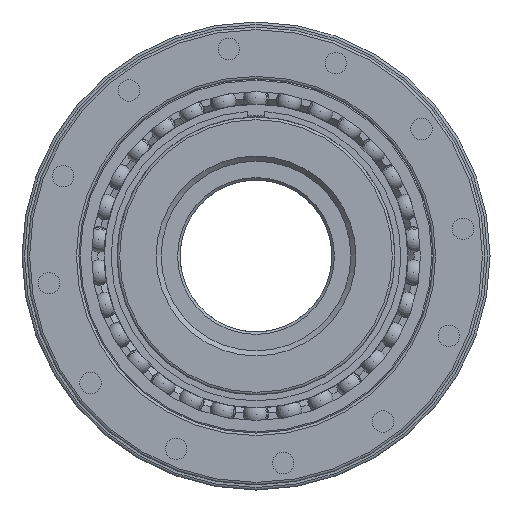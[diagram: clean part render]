
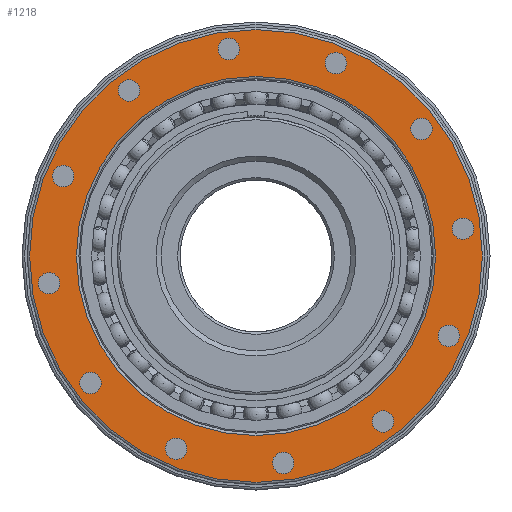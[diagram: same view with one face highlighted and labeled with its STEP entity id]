
A CAD part, left-side view. The second image highlights one B-rep face of the part: STEP entity #1218.
In plain terms, the highlighted planar face has unit normal (-1, 0, 0).
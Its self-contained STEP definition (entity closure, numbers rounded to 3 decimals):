
#1218 = ADVANCED_FACE( '', ( #2723, #2724, #2725, #2726, #2727, #2728, #2729, #2730, #2731, #2732, #2733, #2734, #2735, #2736 ), #2737, .T. );
#2723 = FACE_OUTER_BOUND( '', #4473, .T. );
#2724 = FACE_BOUND( '', #4474, .T. );
#2725 = FACE_BOUND( '', #4475, .T. );
#2726 = FACE_BOUND( '', #4476, .T. );
#2727 = FACE_BOUND( '', #4477, .T. );
#2728 = FACE_BOUND( '', #4478, .T. );
#2729 = FACE_BOUND( '', #4479, .T. );
#2730 = FACE_BOUND( '', #4480, .T. );
#2731 = FACE_BOUND( '', #4481, .T. );
#2732 = FACE_BOUND( '', #4482, .T. );
#2733 = FACE_BOUND( '', #4483, .T. );
#2734 = FACE_BOUND( '', #4484, .T. );
#2735 = FACE_BOUND( '', #4485, .T. );
#2736 = FACE_BOUND( '', #4486, .T. );
#2737 = PLANE( '', #4487 );
#4473 = EDGE_LOOP( '', ( #8340 ) );
#4474 = EDGE_LOOP( '', ( #8341 ) );
#4475 = EDGE_LOOP( '', ( #8342 ) );
#4476 = EDGE_LOOP( '', ( #8343 ) );
#4477 = EDGE_LOOP( '', ( #8344 ) );
#4478 = EDGE_LOOP( '', ( #8345 ) );
#4479 = EDGE_LOOP( '', ( #8346 ) );
#4480 = EDGE_LOOP( '', ( #8347 ) );
#4481 = EDGE_LOOP( '', ( #8348 ) );
#4482 = EDGE_LOOP( '', ( #8349 ) );
#4483 = EDGE_LOOP( '', ( #8350 ) );
#4484 = EDGE_LOOP( '', ( #8351 ) );
#4485 = EDGE_LOOP( '', ( #8352 ) );
#4486 = EDGE_LOOP( '', ( #8353 ) );
#4487 = AXIS2_PLACEMENT_3D( '', #8354, #8355, #8356 );
#8340 = ORIENTED_EDGE( '', *, *, #11380, .T. );
#8341 = ORIENTED_EDGE( '', *, *, #10846, .T. );
#8342 = ORIENTED_EDGE( '', *, *, #10157, .T. );
#8343 = ORIENTED_EDGE( '', *, *, #10162, .T. );
#8344 = ORIENTED_EDGE( '', *, *, #11381, .T. );
#8345 = ORIENTED_EDGE( '', *, *, #11220, .T. );
#8346 = ORIENTED_EDGE( '', *, *, #10572, .T. );
#8347 = ORIENTED_EDGE( '', *, *, #11260, .T. );
#8348 = ORIENTED_EDGE( '', *, *, #10727, .T. );
#8349 = ORIENTED_EDGE( '', *, *, #9917, .T. );
#8350 = ORIENTED_EDGE( '', *, *, #11382, .T. );
#8351 = ORIENTED_EDGE( '', *, *, #11383, .T. );
#8352 = ORIENTED_EDGE( '', *, *, #11248, .T. );
#8353 = ORIENTED_EDGE( '', *, *, #11384, .T. );
#8354 = CARTESIAN_POINT( '', ( 14.65, 0., 70. ) );
#8355 = DIRECTION( '', ( -1., 0., 0. ) );
#8356 = DIRECTION( '', ( 0., 0., 1. ) );
#9917 = EDGE_CURVE( '', #11879, #11879, #11880, .T. );
#10157 = EDGE_CURVE( '', #12287, #12287, #12288, .T. );
#10162 = EDGE_CURVE( '', #12295, #12295, #12296, .T. );
#10572 = EDGE_CURVE( '', #13003, #13003, #13004, .T. );
#10727 = EDGE_CURVE( '', #13237, #13237, #13238, .T. );
#10846 = EDGE_CURVE( '', #13427, #13427, #13428, .T. );
#11220 = EDGE_CURVE( '', #13944, #13944, #13945, .T. );
#11248 = EDGE_CURVE( '', #13984, #13984, #13985, .T. );
#11260 = EDGE_CURVE( '', #14001, #14001, #14002, .T. );
#11380 = EDGE_CURVE( '', #14147, #14147, #14148, .T. );
#11381 = EDGE_CURVE( '', #14149, #14149, #14150, .T. );
#11382 = EDGE_CURVE( '', #14151, #14151, #14152, .T. );
#11383 = EDGE_CURVE( '', #14153, #14153, #14154, .T. );
#11384 = EDGE_CURVE( '', #14155, #14155, #14156, .T. );
#11879 = VERTEX_POINT( '', #15334 );
#11880 = CIRCLE( '', #15335, 4.25 );
#12287 = VERTEX_POINT( '', #17116 );
#12288 = CIRCLE( '', #17117, 4.25 );
#12295 = VERTEX_POINT( '', #17124 );
#12296 = CIRCLE( '', #17125, 4.25 );
#13003 = VERTEX_POINT( '', #20011 );
#13004 = CIRCLE( '', #20012, 4.25 );
#13237 = VERTEX_POINT( '', #20994 );
#13238 = CIRCLE( '', #20995, 4.25 );
#13427 = VERTEX_POINT( '', #21513 );
#13428 = CIRCLE( '', #21514, 71. );
#13944 = VERTEX_POINT( '', #24410 );
#13945 = CIRCLE( '', #24411, 4.25 );
#13984 = VERTEX_POINT( '', #24525 );
#13985 = CIRCLE( '', #24526, 4.25 );
#14001 = VERTEX_POINT( '', #24583 );
#14002 = CIRCLE( '', #24584, 4.25 );
#14147 = VERTEX_POINT( '', #25198 );
#14148 = CIRCLE( '', #25199, 89.5 );
#14149 = VERTEX_POINT( '', #25200 );
#14150 = CIRCLE( '', #25201, 4.25 );
#14151 = VERTEX_POINT( '', #25202 );
#14152 = CIRCLE( '', #25203, 4.25 );
#14153 = VERTEX_POINT( '', #25204 );
#14154 = CIRCLE( '', #25205, 4.25 );
#14155 = VERTEX_POINT( '', #25206 );
#14156 = CIRCLE( '', #25207, 4.25 );
#15334 = CARTESIAN_POINT( '', ( 14.65, -76.22, -27.321 ) );
#15335 = AXIS2_PLACEMENT_3D( '', #26522, #26523, #26524 );
#17116 = CARTESIAN_POINT( '', ( 14.65, 81.794, -6.518 ) );
#17117 = AXIS2_PLACEMENT_3D( '', #26789, #26790, #26791 );
#17124 = CARTESIAN_POINT( '', ( 14.65, 76.22, 35.821 ) );
#17125 = AXIS2_PLACEMENT_3D( '', #26798, #26799, #26800 );
#20011 = CARTESIAN_POINT( '', ( 14.65, -31.571, 80.47 ) );
#20012 = AXIS2_PLACEMENT_3D( '', #27257, #27258, #27259 );
#20994 = CARTESIAN_POINT( '', ( 14.65, -81.794, 15.018 ) );
#20995 = AXIS2_PLACEMENT_3D( '', #27424, #27425, #27426 );
#21513 = CARTESIAN_POINT( '', ( 14.65, 0., 71. ) );
#21514 = AXIS2_PLACEMENT_3D( '', #27577, #27578, #27579 );
#24410 = CARTESIAN_POINT( '', ( 14.65, 10.768, 86.044 ) );
#24411 = AXIS2_PLACEMENT_3D( '', #27919, #27920, #27921 );
#24525 = CARTESIAN_POINT( '', ( 14.65, 31.571, -71.97 ) );
#24526 = AXIS2_PLACEMENT_3D( '', #27946, #27947, #27948 );
#24583 = CARTESIAN_POINT( '', ( 14.65, -65.452, 54.473 ) );
#24584 = AXIS2_PLACEMENT_3D( '', #27961, #27962, #27963 );
#25198 = CARTESIAN_POINT( '', ( 14.65, 0., 89.5 ) );
#25199 = AXIS2_PLACEMENT_3D( '', #28048, #28049, #28050 );
#25200 = CARTESIAN_POINT( '', ( 14.65, 50.223, 69.702 ) );
#25201 = AXIS2_PLACEMENT_3D( '', #28051, #28052, #28053 );
#25202 = CARTESIAN_POINT( '', ( 14.65, -50.223, -61.202 ) );
#25203 = AXIS2_PLACEMENT_3D( '', #28054, #28055, #28056 );
#25204 = CARTESIAN_POINT( '', ( 14.65, -10.768, -77.544 ) );
#25205 = AXIS2_PLACEMENT_3D( '', #28057, #28058, #28059 );
#25206 = CARTESIAN_POINT( '', ( 14.65, 65.452, -45.973 ) );
#25207 = AXIS2_PLACEMENT_3D( '', #28060, #28061, #28062 );
#26522 = CARTESIAN_POINT( '', ( 14.65, -76.22, -31.571 ) );
#26523 = DIRECTION( '', ( 1., 0., 0. ) );
#26524 = DIRECTION( '', ( 0., 0., 1. ) );
#26789 = CARTESIAN_POINT( '', ( 14.65, 81.794, -10.768 ) );
#26790 = DIRECTION( '', ( 1., 0., 0. ) );
#26791 = DIRECTION( '', ( 0., 0., 1. ) );
#26798 = CARTESIAN_POINT( '', ( 14.65, 76.22, 31.571 ) );
#26799 = DIRECTION( '', ( 1., 0., 0. ) );
#26800 = DIRECTION( '', ( 0., 0., 1. ) );
#27257 = CARTESIAN_POINT( '', ( 14.65, -31.571, 76.22 ) );
#27258 = DIRECTION( '', ( 1., 0., 0. ) );
#27259 = DIRECTION( '', ( 0., 0., 1. ) );
#27424 = CARTESIAN_POINT( '', ( 14.65, -81.794, 10.768 ) );
#27425 = DIRECTION( '', ( 1., 0., 0. ) );
#27426 = DIRECTION( '', ( 0., 0., 1. ) );
#27577 = CARTESIAN_POINT( '', ( 14.65, 0., 0. ) );
#27578 = DIRECTION( '', ( 1., 0., 0. ) );
#27579 = DIRECTION( '', ( 0., 0., 1. ) );
#27919 = CARTESIAN_POINT( '', ( 14.65, 10.768, 81.794 ) );
#27920 = DIRECTION( '', ( 1., 0., 0. ) );
#27921 = DIRECTION( '', ( 0., 0., 1. ) );
#27946 = CARTESIAN_POINT( '', ( 14.65, 31.571, -76.22 ) );
#27947 = DIRECTION( '', ( 1., 0., 0. ) );
#27948 = DIRECTION( '', ( 0., 0., 1. ) );
#27961 = CARTESIAN_POINT( '', ( 14.65, -65.452, 50.223 ) );
#27962 = DIRECTION( '', ( 1., 0., 0. ) );
#27963 = DIRECTION( '', ( 0., 0., 1. ) );
#28048 = CARTESIAN_POINT( '', ( 14.65, 0., 0. ) );
#28049 = DIRECTION( '', ( -1., 0., 0. ) );
#28050 = DIRECTION( '', ( 0., 0., 1. ) );
#28051 = CARTESIAN_POINT( '', ( 14.65, 50.223, 65.452 ) );
#28052 = DIRECTION( '', ( 1., 0., 0. ) );
#28053 = DIRECTION( '', ( 0., 0., 1. ) );
#28054 = CARTESIAN_POINT( '', ( 14.65, -50.223, -65.452 ) );
#28055 = DIRECTION( '', ( 1., 0., 0. ) );
#28056 = DIRECTION( '', ( 0., 0., 1. ) );
#28057 = CARTESIAN_POINT( '', ( 14.65, -10.768, -81.794 ) );
#28058 = DIRECTION( '', ( 1., 0., 0. ) );
#28059 = DIRECTION( '', ( 0., 0., 1. ) );
#28060 = CARTESIAN_POINT( '', ( 14.65, 65.452, -50.223 ) );
#28061 = DIRECTION( '', ( 1., 0., 0. ) );
#28062 = DIRECTION( '', ( 0., 0., 1. ) );
